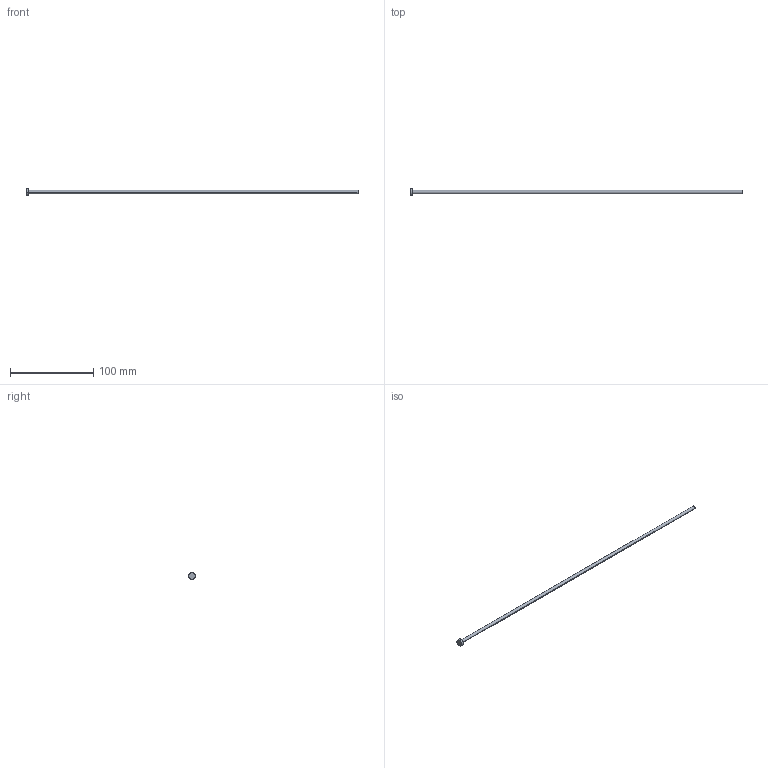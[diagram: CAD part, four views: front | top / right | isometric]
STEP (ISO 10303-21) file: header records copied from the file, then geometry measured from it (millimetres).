
FILE_DESCRIPTION (( 'STEP AP214' ), '1' );
FILE_NAME ('A-4x400.STEP', '2020-05-29T10:28:35', ( 'August' ), ( '' ), 'SwSTEP 2.0', 'SolidWorks 2018', '' );
FILE_SCHEMA (( 'AUTOMOTIVE_DESIGN' ));
Length unit declared in the file: millimetre
Products named in the file (1): A-4x400
Bounding box: 400 x 8 x 8 mm (x, y, z)
Volume: 5139.9 mm3; surface area: 5163.2 mm2
Topology: 1 solids, 1 shells, 9 faces, 16 edges, 10 vertices
Faces by surface type: cylinder 4, plane 3, torus 2
Entity records: 260 total; most frequent: DIRECTION 48, CARTESIAN_POINT 36, ORIENTED_EDGE 32, AXIS2_PLACEMENT_3D 22, EDGE_CURVE 16, CIRCLE 12, VERTEX_POINT 10, EDGE_LOOP 10
